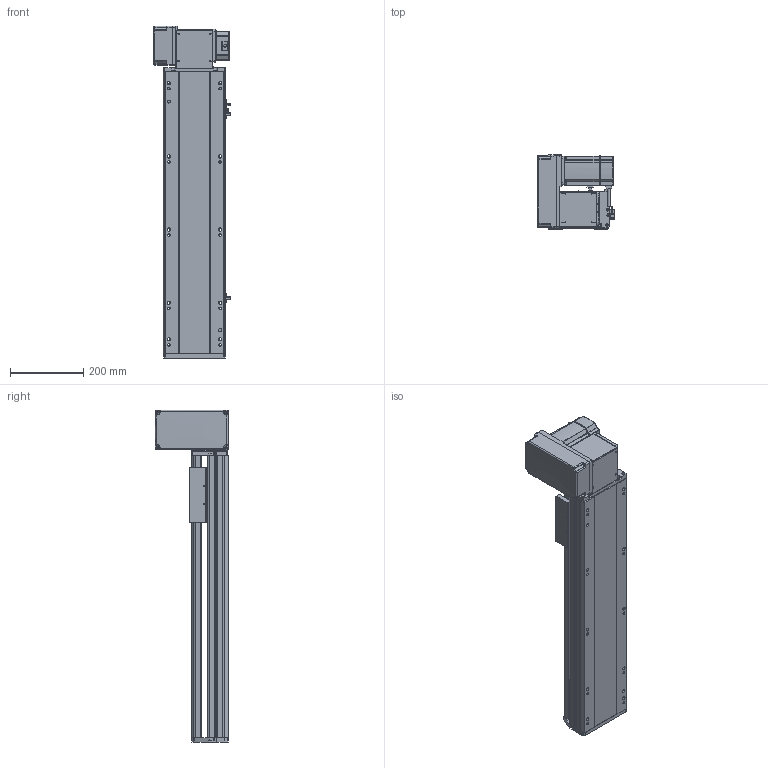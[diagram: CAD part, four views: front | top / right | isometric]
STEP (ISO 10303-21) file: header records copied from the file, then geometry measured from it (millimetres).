
FILE_DESCRIPTION (( 'STEP AP214' ), '1' );
FILE_NAME ('RTB17S-XX-500-LW-M75-C4.STEP', '2025-12-12T01:01:07', ( '' ), ( '' ), 'SwSTEP 2.0', 'SolidWorks 2018', '' );
FILE_SCHEMA (( 'AUTOMOTIVE_DESIGN' ));
Length unit declared in the file: millimetre
Products named in the file (15): RTB17S-L-001-耜醱啣^RTB17S-XX-XX-LW-M75-C4; RTB17S-L-007奻裔^RTB17S-XX-XX-LW-M75-C4; RTB17S-LW-々湍釱蚾饜-750W^RTB17S-XX-XX-LW-M75-C4; RTB22S-GY-008-M75--萇儂啣^RTB17S-LW-々湍釱蚾饜-750W_RTB17S-XX-XX-LW-M75-C4; RTB22S-GY-017P^RTB17S-LW-々湍釱蚾饜-750W_RTB17S-XX-XX-LW-M75-C4; RTB17-R-011菁釱^RTB17S-XX-XX-LW-M75-C4; RTB17S-賑釱^RTB17S-XX-XX-LW-M75-C4; RTB22S-GY-005P^RTB17S-LW-々湍釱蚾饜-750W_RTB17S-XX-XX-LW-M75-C4; RTB22S-GY-018P^RTB17S-LW-々湍釱蚾饜-750W_RTB17S-XX-XX-LW-M75-C4; 750W萇儂^RTB17S-XX-XX-LW-M75-C4; RTB17S-L-014-T20-P75--々湍釱^RTB17S-LW-々湍釱蚾饜-750W_RTB17S-XX-XX-LW-M75-C4; RTB17S-XX-500-LW-M75-C4; EE672^RTB17S-XX-XX-LW-M75-C4; RTB17S-L-004-賑釱^RTB17S-賑釱_RTB17S-XX-XX-LW-M75-C4; RTH13-BL-012覜茼え俋离^RTB17S-賑釱_RTB17S-XX-XX-LW-M75-C4
Assembly tree (17 placements, depth 3):
  RTB17S-XX-500-LW-M75-C4
    RTB17-R-011菁釱^RTB17S-XX-XX-LW-M75-C4
    EE672^RTB17S-XX-XX-LW-M75-C4  x3
    RTB17S-L-001-耜醱啣^RTB17S-XX-XX-LW-M75-C4
    RTB17S-賑釱^RTB17S-XX-XX-LW-M75-C4
      RTB17S-L-004-賑釱^RTB17S-賑釱_RTB17S-XX-XX-LW-M75-C4
      RTH13-BL-012覜茼え俋离^RTB17S-賑釱_RTB17S-XX-XX-LW-M75-C4
    RTB17S-L-007奻裔^RTB17S-XX-XX-LW-M75-C4
    750W萇儂^RTB17S-XX-XX-LW-M75-C4
    RTB17S-LW-々湍釱蚾饜-750W^RTB17S-XX-XX-LW-M75-C4
      RTB17S-L-014-T20-P75--々湍釱^RTB17S-LW-々湍釱蚾饜-750W_RTB17S-XX-XX-LW-M75-C4
      RTB22S-GY-005P^RTB17S-LW-々湍釱蚾饜-750W_RTB17S-XX-XX-LW-M75-C4
      RTB22S-GY-017P^RTB17S-LW-々湍釱蚾饜-750W_RTB17S-XX-XX-LW-M75-C4  x2
      RTB22S-GY-008-M75--萇儂啣^RTB17S-LW-々湍釱蚾饜-750W_RTB17S-XX-XX-LW-M75-C4
      RTB22S-GY-018P^RTB17S-LW-々湍釱蚾饜-750W_RTB17S-XX-XX-LW-M75-C4
Bounding box: 210.4 x 201.5 x 907.5 mm (x, y, z)
Volume: 9072938.5 mm3; surface area: 1457653.8 mm2
Topology: 17 solids, 17 shells, 2057 faces, 5674 edges, 3662 vertices
Faces by surface type: plane 966, cylinder 675, bspline 294, cone 110, sphere 8, torus 4
Entity records: 56566 total; most frequent: CARTESIAN_POINT 16538, ORIENTED_EDGE 8192, DIRECTION 7682, EDGE_CURVE 4096, AXIS2_PLACEMENT_3D 2682, VERTEX_POINT 2666, LINE 2318, VECTOR 2318
